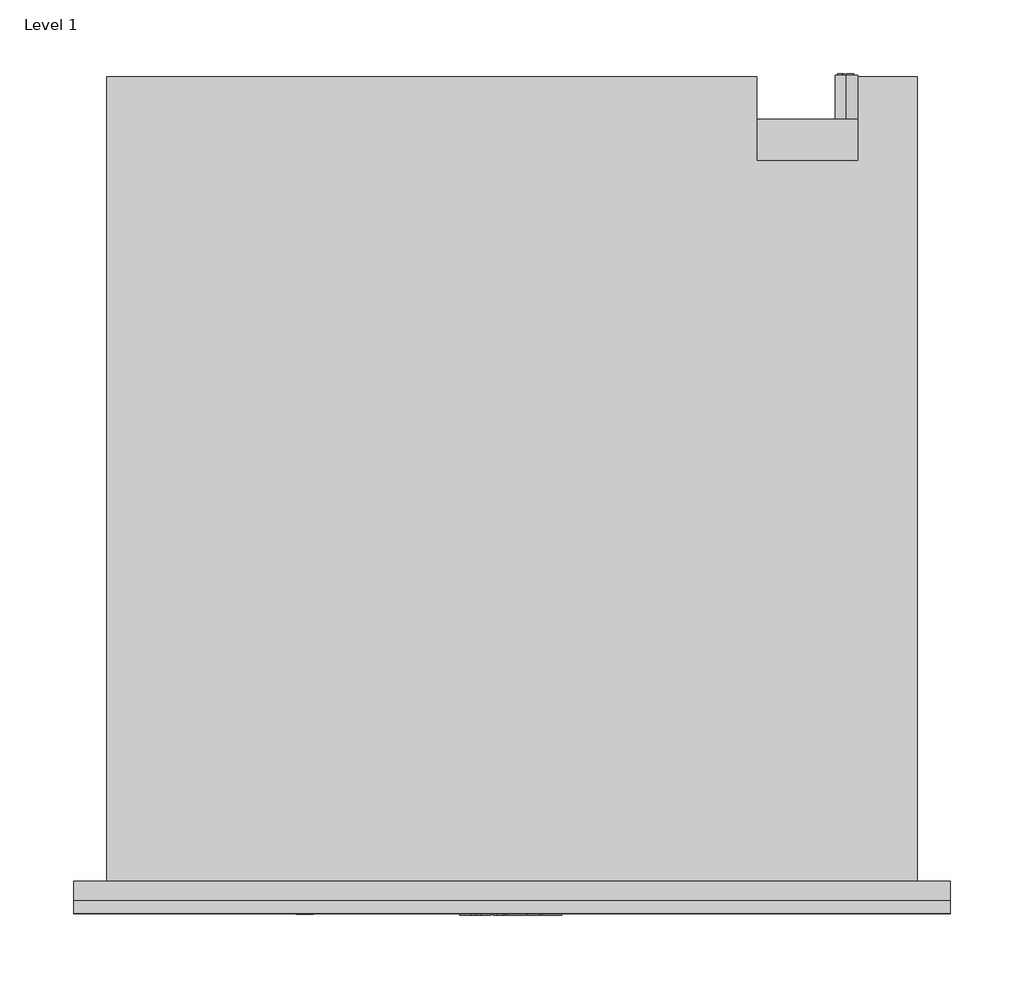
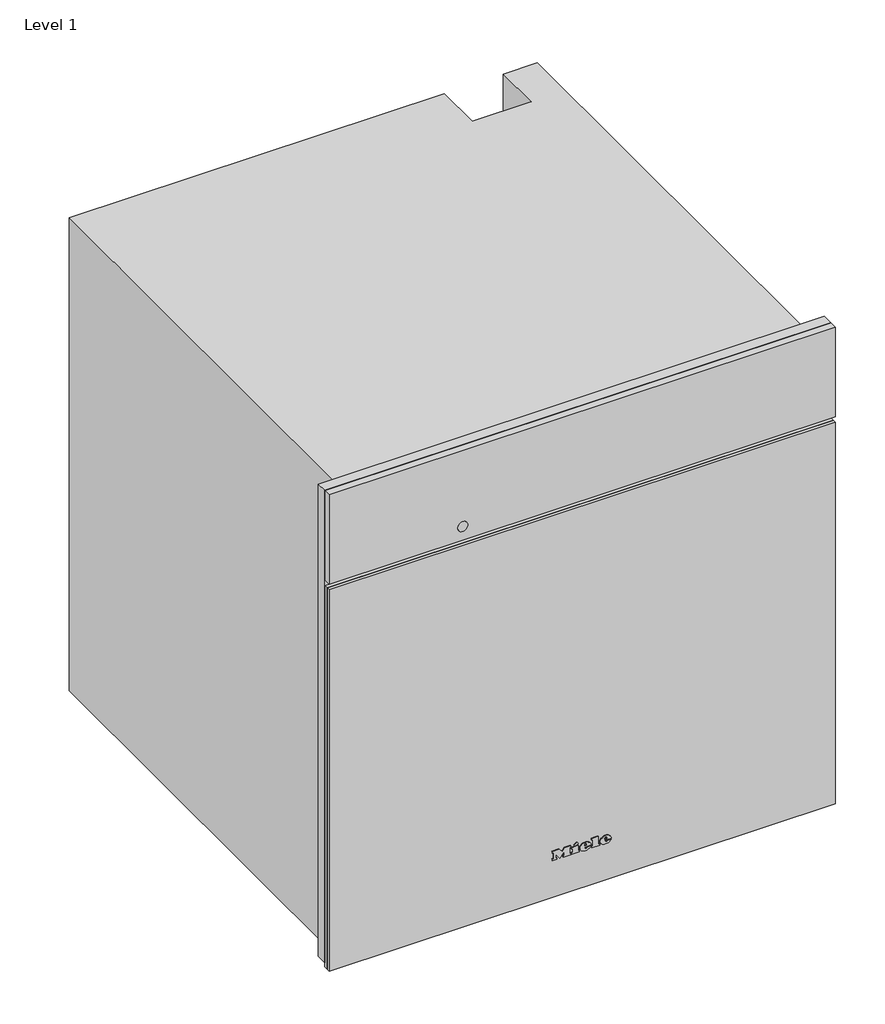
# One storey: 1 proxy.
"""IFC4 building model written with IfcOpenShell, lengths in millimetres."""

from ifc_helpers import new_model, si_unit, origin, place, context, project, spatial, transform, mapped, element, save
from components import specialty_equipment_f0ab52e3

model = new_model("IFC4")

# Units and contexts
model_context = context("Model", 3, world=origin())
ifc_project = project(units=[si_unit("LENGTHUNIT", "METRE", prefix="MILLI")], contexts=[model_context])

# Site, building, storey
site = spatial("IfcSite", under=ifc_project)
building = spatial("IfcBuilding", under=site)
storey = spatial("IfcBuildingStorey", under=building, Name="Level 1", Elevation=0.0)

# Proxy
placement = place(None, origin())
specialty_equipment_shape = specialty_equipment_f0ab52e3(model_context)
element("IfcBuildingElementProxy", 1, Name="11107090_D_DGC7460X_GRGR : 23746073_D_11107090_DGC7460X_GRGR", ObjectType="11107090_D_DGC7460X_GRGR : 23746073_D_11107090_DGC7460X_GRGR", at=placement, inside=storey, context=model_context, shape_type="MappedRepresentation", body=[
    mapped(specialty_equipment_shape, transform((0.0, 0.0, 0.0), x_axis=(1.0, 0.0, 0.0), y_axis=(0.0, 1.0, 0.0), z_axis=(0.0, 0.0, 1.0))),
])

save(model, "model.ifc")
